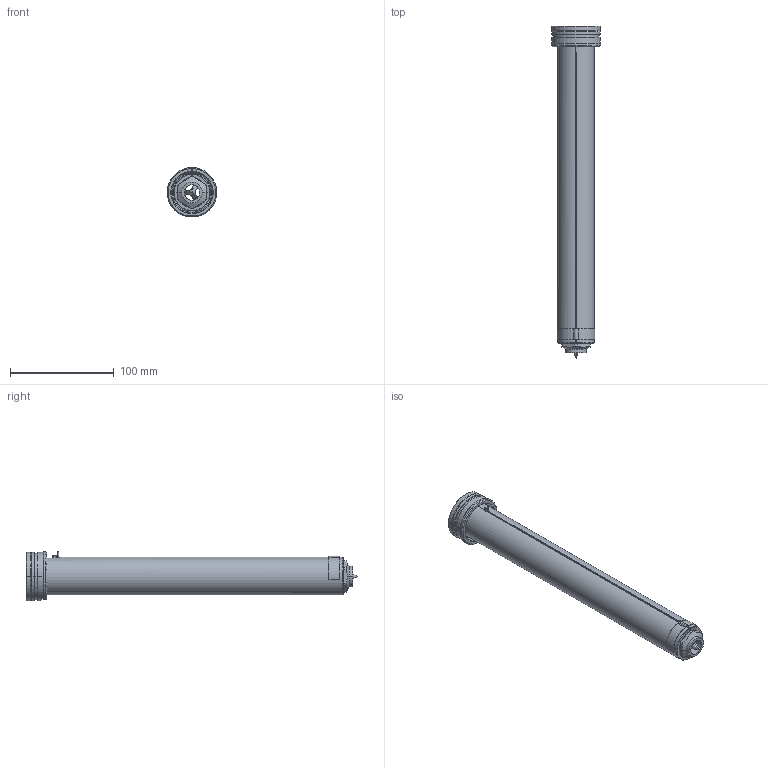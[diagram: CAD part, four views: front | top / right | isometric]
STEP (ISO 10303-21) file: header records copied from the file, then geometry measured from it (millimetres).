
FILE_DESCRIPTION((''),'2;1');
FILE_NAME('EO16_PG-BL_WR_300_SW','2024-02-19T11:20:22',('sundharh'),(''),'CREO PARAMETRIC BY PTC INC, 2023154','CREO PARAMETRIC BY PTC INC, 2023154','');
FILE_SCHEMA(('CONFIG_CONTROL_DESIGN'));
Length unit declared in the file: millimetre
Products named in the file (1): EO16_PG-BL_WR_300_SW
Bounding box: 47.97 x 320 x 48 mm (x, y, z)
Volume: 258764.7 mm3; surface area: 61378.6 mm2
Topology: 1 solids, 1 shells, 200 faces, 526 edges, 325 vertices
Faces by surface type: cylinder 79, plane 59, cone 39, torus 14, bspline 7, sphere 2
Entity records: 7473 total; most frequent: CARTESIAN_POINT 2432, DIRECTION 1113, ORIENTED_EDGE 1040, EDGE_CURVE 520, AXIS2_PLACEMENT_3D 464, VERTEX_POINT 325, CIRCLE 271, EDGE_LOOP 217
